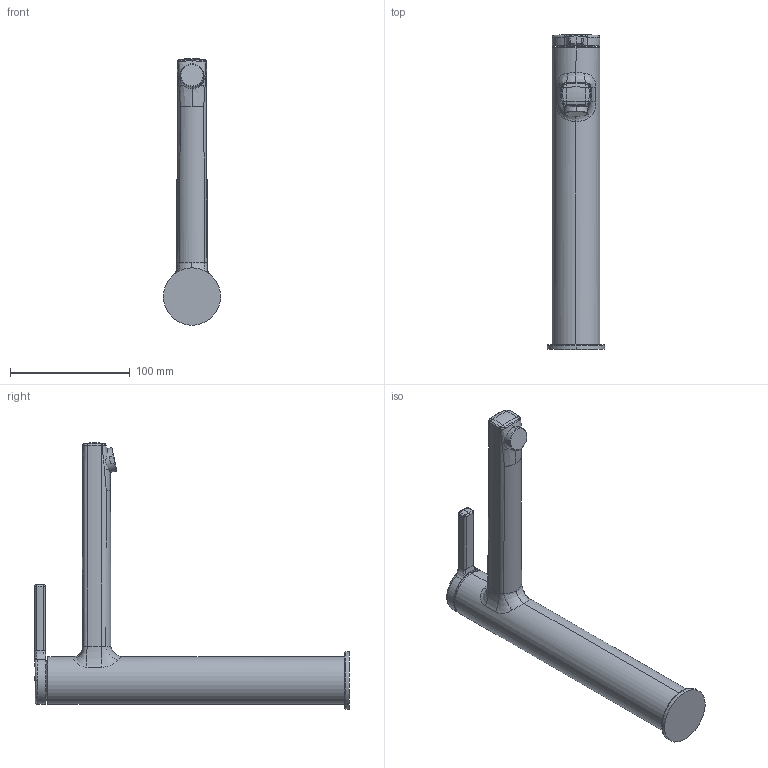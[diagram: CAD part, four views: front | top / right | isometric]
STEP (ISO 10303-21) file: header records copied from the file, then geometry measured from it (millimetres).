
FILE_DESCRIPTION((''),'2;1');
FILE_NAME('509503_A185','2020-07-29T14:05:39',('DB991'),(''),'CREO PARAMETRIC BY PTC INC, 2018500','CREO PARAMETRIC BY PTC INC, 2018500','');
FILE_SCHEMA(('CONFIG_CONTROL_DESIGN'));
Length unit declared in the file: millimetre
Products named in the file (1): 509503_A185
Bounding box: 48 x 263.35 x 222.93 mm (x, y, z)
Volume: 433410.6 mm3; surface area: 55497.4 mm2
Topology: 1 solids, 1 shells, 154 faces, 375 edges, 226 vertices
Faces by surface type: bspline 66, plane 39, cylinder 29, torus 12, sphere 4, cone 4
Entity records: 18332 total; most frequent: CARTESIAN_POINT 15183, ORIENTED_EDGE 744, DIRECTION 507, EDGE_CURVE 372, VERTEX_POINT 226, AXIS2_PLACEMENT_3D 207, EDGE_LOOP 160, B_SPLINE_CURVE_WITH_KNOTS 160
